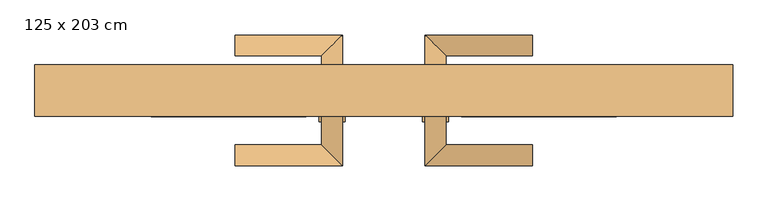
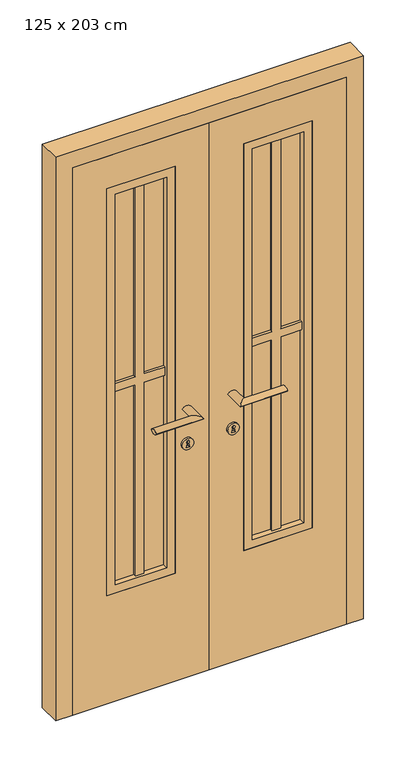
"""IFC4 building model written with IfcOpenShell, lengths in millimetres: door geometry, Puerta abatible de 2 hojas con ventana con ventilacion : 125 x 203 cm."""

from ifc_helpers import new_model, si_unit, point, frame, frame_2d, origin, place, context, project, spatial, polyline, circle_curve, ellipse_curve, trimmed, segment, composite_curve, outline, extrude, faceted_brep, source, transform, mapped, element, save
from ifc_brep_helpers import plane_surface, cylinder_surface, advanced_brep


def door_125_x_203_cm_500769dd(model_context):
    return source(origin(), model_context, "Body", "SolidModel", [
        extrude(outline(composite_curve([segment(trimmed(circle_curve(frame_2d((869.9969135, 80.0)), 20.0), [point((869.9969135, 60.0))], [point((869.9969135, 100.0))], False, "CARTESIAN"), True, "CONTINUOUS"), segment(trimmed(circle_curve(frame_2d((869.9969135, 80.0)), 20.0), [point((869.9969135, 100.0))], [point((869.9969135, 60.0))], False, "CARTESIAN"), True, "CONTINUOUS")], self_intersect=False), holes=[composite_curve([segment(polyline([(872.8227542, 82.2570328), (858.2683183, 85.8858612), (858.2683183, 74.1141388), (872.8227542, 77.7429672)]), True, "CONTINUOUS"), segment(trimmed(circle_curve(frame_2d((877.2843462, 80.0)), 5.0), [point((872.8227542, 77.7429672))], [point((872.8227542, 82.2570328))], True, "CARTESIAN"), True, "CONTINUOUS")], self_intersect=False)]), frame((0.0, -48.0, 0.0), z_axis=(0.0, 1.0, 0.0), x_axis=(0.0, 0.0, 1.0)), (0.0, 0.0, 1.0), 8.0),
        advanced_brep(
        [(96.0, -40.0, 1000.0), (64.0, -40.0, 1000.0), (96.0, -84.0, 1000.0), (64.0, -116.0, 1000.0), (230.0, -84.0, 1000.0), (230.0, -116.0, 1000.0)],
        [
            (0, 1, circle_curve(frame((80.0, -40.0, 1011.8032746), z_axis=(0.0, 1.0, 0.0), x_axis=(-1.0, 0.0, 0.0)), 19.8825877)),
            (1, 0, circle_curve(frame((80.0, -40.0, 988.1967254), z_axis=(0.0, 1.0, 0.0), x_axis=(-1.0, 0.0, 0.0)), 19.8825877)),
            (0, 2),
            (2, 3, ellipse_curve(frame((80.0, -100.0, 1011.8032746), z_axis=(-0.7071067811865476, 0.7071067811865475, 0.0), x_axis=(0.7071067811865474, 0.7071067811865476, 0.0)), 28.1182251, 19.8825877)),
            (3, 1),
            (3, 2, ellipse_curve(frame((80.0, -100.0, 988.1967254), z_axis=(-0.7071067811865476, 0.7071067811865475, 0.0), x_axis=(0.7071067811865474, 0.7071067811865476, 0.0)), 28.1182251, 19.8825877)),
            (4, 5, circle_curve(frame((230.0, -100.0, 988.1967254), z_axis=(1.0, 0.0, 0.0), x_axis=(0.0, -1.0, 0.0)), 19.8825877)),
            (5, 4, circle_curve(frame((230.0, -100.0, 1011.8032746), z_axis=(1.0, 0.0, 0.0), x_axis=(0.0, -1.0, 0.0)), 19.8825877)),
            (2, 4),
            (5, 3),
        ],
        [
            plane_surface(frame((80.0, -40.0, 1000.0), z_axis=(0.0, 1.0, 0.0), x_axis=(0.0, 0.0, -1.0))),
            cylinder_surface(frame((80.0, -40.0, 1011.8032746), z_axis=(0.0, 1.0, 0.0), x_axis=(-1.0, 0.0, 0.0)), 19.8825877),
            cylinder_surface(frame((80.0, -40.0, 988.1967254), z_axis=(0.0, 1.0, 0.0), x_axis=(-1.0, 0.0, 0.0)), 19.8825877),
            plane_surface(frame((230.0, -100.0, 1000.0), z_axis=(1.0, 0.0, 0.0), x_axis=(0.0, 0.0, -1.0))),
            cylinder_surface(frame((80.0, -100.0, 1011.8032746), z_axis=(-1.0, 0.0, 0.0), x_axis=(0.0, -1.0, 0.0)), 19.8825877),
            cylinder_surface(frame((80.0, -100.0, 988.1967254), z_axis=(-1.0, 0.0, 0.0), x_axis=(0.0, -1.0, 0.0)), 19.8825877),
        ],
        [
            (0, [[1, 2]]),
            (1, [[-1, 3, 4, 5]]),
            (2, [[-2, -5, 6, -3]]),
            (3, [[7, 8]]),
            (4, [[-4, 9, -8, 10]]),
            (5, [[-6, -10, -7, -9]]),
        ],
    ),
        extrude(outline(composite_curve([segment(trimmed(circle_curve(frame_2d((869.9969135, 80.0)), 20.0), [point((869.9969135, 100.0))], [point((869.9969135, 60.0))], False, "CARTESIAN"), True, "CONTINUOUS"), segment(trimmed(circle_curve(frame_2d((869.9969135, 80.0)), 20.0), [point((869.9969135, 60.0))], [point((869.9969135, 100.0))], False, "CARTESIAN"), True, "CONTINUOUS")], self_intersect=False), holes=[composite_curve([segment(polyline([(858.2683183, 74.1141388), (872.8227542, 77.7429672)]), True, "CONTINUOUS"), segment(trimmed(circle_curve(frame_2d((877.2843462, 80.0)), 5.0), [point((872.8227542, 77.7429672))], [point((872.8227542, 82.2570328))], True, "CARTESIAN"), True, "CONTINUOUS"), segment(polyline([(872.8227542, 82.2570328), (858.2683183, 85.8858612), (858.2683183, 74.1141388)]), True, "CONTINUOUS")], self_intersect=False)]), frame((0.0, 10.0, 0.0), z_axis=(0.0, 1.0, 0.0), x_axis=(0.0, 0.0, 1.0)), (0.0, 0.0, 1.0), 8.0),
        advanced_brep(
        [(64.0, 10.0, 1000.0), (96.0, 10.0, 1000.0), (64.0, 86.0, 1000.0), (96.0, 54.0, 1000.0), (230.0, 86.0, 1000.0), (230.0, 54.0, 1000.0)],
        [
            (0, 1, circle_curve(frame((80.0, 10.0, 1011.8032746), z_axis=(0.0, -1.0, 0.0), x_axis=(1.0, 0.0, 0.0)), 19.8825877)),
            (1, 0, circle_curve(frame((80.0, 10.0, 988.1967254), z_axis=(0.0, -1.0, 0.0), x_axis=(1.0, 0.0, 0.0)), 19.8825877)),
            (0, 2),
            (2, 3, ellipse_curve(frame((80.0, 70.0, 1011.8032746), z_axis=(-0.7071067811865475, -0.7071067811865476, 0.0), x_axis=(0.7071067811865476, -0.7071067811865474, 0.0)), 28.1182251, 19.8825877)),
            (3, 1),
            (3, 2, ellipse_curve(frame((80.0, 70.0, 988.1967254), z_axis=(-0.7071067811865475, -0.7071067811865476, 0.0), x_axis=(0.7071067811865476, -0.7071067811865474, 0.0)), 28.1182251, 19.8825877)),
            (4, 5, circle_curve(frame((230.0, 70.0, 988.1967254), z_axis=(1.0, 0.0, 0.0), x_axis=(0.0, -1.0, 0.0)), 19.8825877)),
            (5, 4, circle_curve(frame((230.0, 70.0, 1011.8032746), z_axis=(1.0, 0.0, 0.0), x_axis=(0.0, -1.0, 0.0)), 19.8825877)),
            (2, 4),
            (5, 3),
        ],
        [
            plane_surface(frame((80.0, 10.0, 1000.0), z_axis=(0.0, -1.0, 0.0), x_axis=(0.0, 0.0, -1.0))),
            cylinder_surface(frame((80.0, 10.0, 1011.8032746), z_axis=(0.0, -1.0, 0.0), x_axis=(1.0, 0.0, 0.0)), 19.8825877),
            cylinder_surface(frame((80.0, 10.0, 988.1967254), z_axis=(0.0, -1.0, 0.0), x_axis=(1.0, 0.0, 0.0)), 19.8825877),
            plane_surface(frame((230.0, 70.0, 1000.0), z_axis=(1.0, 0.0, 0.0), x_axis=(0.0, 0.0, -1.0))),
            cylinder_surface(frame((80.0, 70.0, 1011.8032746), z_axis=(-1.0, 0.0, 0.0), x_axis=(0.0, -1.0, 0.0)), 19.8825877),
            cylinder_surface(frame((80.0, 70.0, 988.1967254), z_axis=(-1.0, 0.0, 0.0), x_axis=(0.0, -1.0, 0.0)), 19.8825877),
        ],
        [
            (0, [[1, 2]]),
            (1, [[-1, 3, 4, 5]]),
            (2, [[-2, -5, 6, -3]]),
            (3, [[7, 8]]),
            (4, [[-4, 9, -8, 10]]),
            (5, [[-6, -10, -7, -9]]),
        ],
    ),
        extrude(outline(polyline([(2030.0, 480.0), (2030.0, 0.0), (0.0, 0.0), (0.0, 480.0), (2030.0, 480.0)]), holes=[polyline([(400.0, 360.0), (400.0, 120.0), (1910.0, 120.0), (1910.0, 360.0), (400.0, 360.0)])]), frame((0.0, -40.0, 0.0), z_axis=(0.0, 1.0, 0.0), x_axis=(0.0, 0.0, 1.0)), (0.0, 0.0, 1.0), 50.0),
        extrude(outline(polyline([(400.0, 120.0), (400.0, 360.0), (1910.0, 360.0), (1910.0, 120.0), (400.0, 120.0)]), holes=[polyline([(1880.0, 150.0), (1880.0, 330.0), (430.0, 330.0), (430.0, 150.0), (1880.0, 150.0)])]), frame((0.0, -40.0, 0.0), z_axis=(0.0, 1.0, 0.0), x_axis=(0.0, 0.0, 1.0)), (0.0, 0.0, 1.0), 50.0),
        extrude(outline(polyline([(360.0, -10.0), (360.0, -20.0), (120.0, -20.0), (120.0, -10.0), (360.0, -10.0)])), frame((0.0, 0.0, 400.0), z_axis=(0.0, 0.0, 1.0), x_axis=(1.0, 0.0, 0.0)), (0.0, 0.0, 1.0), 1510.0),
        extrude(outline(polyline([(1170.0, 120.0), (1140.0, 120.0), (1140.0, 225.0), (400.0, 225.0), (400.0, 255.0), (1140.0, 255.0), (1140.0, 360.0), (1170.0, 360.0), (1170.0, 255.0), (1910.0, 255.0), (1910.0, 225.0), (1170.0, 225.0), (1170.0, 120.0)])), frame((0.0, -30.0, 0.0), z_axis=(0.0, 1.0, 0.0), x_axis=(0.0, 0.0, 1.0)), (0.0, 0.0, 1.0), 30.0),
        extrude(outline(composite_curve([segment(trimmed(circle_curve(frame_2d((869.9969135, -80.0)), 20.0), [point((869.9969135, -60.0))], [point((869.9969135, -100.0))], False, "CARTESIAN"), True, "CONTINUOUS"), segment(trimmed(circle_curve(frame_2d((869.9969135, -80.0)), 20.0), [point((869.9969135, -100.0))], [point((869.9969135, -60.0))], False, "CARTESIAN"), True, "CONTINUOUS")], self_intersect=False), holes=[composite_curve([segment(trimmed(circle_curve(frame_2d((877.2843462, -80.0)), 5.0), [point((872.8227542, -82.2570328))], [point((872.8227542, -77.7429672))], True, "CARTESIAN"), True, "CONTINUOUS"), segment(polyline([(872.8227542, -77.7429672), (858.2683183, -74.1141388), (858.2683183, -85.8858612), (872.8227542, -82.2570328)]), True, "CONTINUOUS")], self_intersect=False)]), frame((0.0, -48.0, 0.0), z_axis=(0.0, 1.0, 0.0), x_axis=(0.0, 0.0, 1.0)), (0.0, 0.0, 1.0), 8.0),
        advanced_brep(
        [(-96.0, -40.0, 1000.0), (-64.0, -40.0, 1000.0), (-64.0, -116.0, 1000.0), (-96.0, -84.0, 1000.0), (-230.0, -84.0, 1000.0), (-230.0, -116.0, 1000.0)],
        [
            (0, 1, circle_curve(frame((-80.0, -40.0, 988.1967254), z_axis=(0.0, 1.0, 0.0), x_axis=(1.0, 0.0, 0.0)), 19.8825877)),
            (1, 0, circle_curve(frame((-80.0, -40.0, 1011.8032746), z_axis=(0.0, 1.0, 0.0), x_axis=(1.0, 0.0, 0.0)), 19.8825877)),
            (1, 2),
            (2, 3, ellipse_curve(frame((-80.0, -100.0, 1011.8032746), z_axis=(0.7071067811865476, 0.7071067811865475, 0.0), x_axis=(-0.7071067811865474, 0.7071067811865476, 0.0)), 28.1182251, 19.8825877)),
            (3, 0),
            (3, 2, ellipse_curve(frame((-80.0, -100.0, 988.1967254), z_axis=(0.7071067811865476, 0.7071067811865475, 0.0), x_axis=(-0.7071067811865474, 0.7071067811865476, 0.0)), 28.1182251, 19.8825877)),
            (4, 5, circle_curve(frame((-230.0, -100.0, 1011.8032746), z_axis=(-1.0, 0.0, 0.0), x_axis=(0.0, -1.0, 0.0)), 19.8825877)),
            (5, 4, circle_curve(frame((-230.0, -100.0, 988.1967254), z_axis=(-1.0, 0.0, 0.0), x_axis=(0.0, -1.0, 0.0)), 19.8825877)),
            (2, 5),
            (4, 3),
        ],
        [
            plane_surface(frame((-80.0, -40.0, 1000.0), z_axis=(0.0, 1.0, 0.0), x_axis=(0.0, 0.0, -1.0))),
            cylinder_surface(frame((-80.0, -40.0, 1011.8032746), z_axis=(0.0, 1.0, 0.0), x_axis=(1.0, 0.0, 0.0)), 19.8825877),
            cylinder_surface(frame((-80.0, -40.0, 988.1967254), z_axis=(0.0, 1.0, 0.0), x_axis=(1.0, 0.0, 0.0)), 19.8825877),
            plane_surface(frame((-230.0, -100.0, 1000.0), z_axis=(-1.0, 0.0, 0.0), x_axis=(0.0, 0.0, -1.0))),
            cylinder_surface(frame((-80.0, -100.0, 1011.8032746), z_axis=(1.0, 0.0, 0.0), x_axis=(0.0, -1.0, 0.0)), 19.8825877),
            cylinder_surface(frame((-80.0, -100.0, 988.1967254), z_axis=(1.0, 0.0, 0.0), x_axis=(0.0, -1.0, 0.0)), 19.8825877),
        ],
        [
            (0, [[1, 2]]),
            (1, [[3, 4, 5, -2]]),
            (2, [[-5, 6, -3, -1]]),
            (3, [[7, 8]]),
            (4, [[9, -7, 10, -4]]),
            (5, [[-10, -8, -9, -6]]),
        ],
    ),
        extrude(outline(composite_curve([segment(trimmed(circle_curve(frame_2d((869.9969135, -80.0)), 20.0), [point((869.9969135, -100.0))], [point((869.9969135, -60.0))], False, "CARTESIAN"), True, "CONTINUOUS"), segment(trimmed(circle_curve(frame_2d((869.9969135, -80.0)), 20.0), [point((869.9969135, -60.0))], [point((869.9969135, -100.0))], False, "CARTESIAN"), True, "CONTINUOUS")], self_intersect=False), holes=[composite_curve([segment(polyline([(858.2683183, -74.1141388), (858.2683183, -85.8858612), (872.8227542, -82.2570328)]), True, "CONTINUOUS"), segment(trimmed(circle_curve(frame_2d((877.2843462, -80.0)), 5.0), [point((872.8227542, -82.2570328))], [point((872.8227542, -77.7429672))], True, "CARTESIAN"), True, "CONTINUOUS"), segment(polyline([(872.8227542, -77.7429672), (858.2683183, -74.1141388)]), True, "CONTINUOUS")], self_intersect=False)]), frame((0.0, 10.0, 0.0), z_axis=(0.0, 1.0, 0.0), x_axis=(0.0, 0.0, 1.0)), (0.0, 0.0, 1.0), 8.0),
        advanced_brep(
        [(-64.0, 10.0, 1000.0), (-96.0, 10.0, 1000.0), (-96.0, 54.0, 1000.0), (-64.0, 86.0, 1000.0), (-230.0, 86.0, 1000.0), (-230.0, 54.0, 1000.0)],
        [
            (0, 1, circle_curve(frame((-80.0, 10.0, 988.1967254), z_axis=(0.0, -1.0, 0.0), x_axis=(-1.0, 0.0, 0.0)), 19.8825877)),
            (1, 0, circle_curve(frame((-80.0, 10.0, 1011.8032746), z_axis=(0.0, -1.0, 0.0), x_axis=(-1.0, 0.0, 0.0)), 19.8825877)),
            (1, 2),
            (2, 3, ellipse_curve(frame((-80.0, 70.0, 1011.8032746), z_axis=(0.7071067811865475, -0.7071067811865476, 0.0), x_axis=(-0.7071067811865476, -0.7071067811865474, 0.0)), 28.1182251, 19.8825877)),
            (3, 0),
            (3, 2, ellipse_curve(frame((-80.0, 70.0, 988.1967254), z_axis=(0.7071067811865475, -0.7071067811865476, 0.0), x_axis=(-0.7071067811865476, -0.7071067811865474, 0.0)), 28.1182251, 19.8825877)),
            (4, 5, circle_curve(frame((-230.0, 70.0, 1011.8032746), z_axis=(-1.0, 0.0, 0.0), x_axis=(0.0, -1.0, 0.0)), 19.8825877)),
            (5, 4, circle_curve(frame((-230.0, 70.0, 988.1967254), z_axis=(-1.0, 0.0, 0.0), x_axis=(0.0, -1.0, 0.0)), 19.8825877)),
            (2, 5),
            (4, 3),
        ],
        [
            plane_surface(frame((-80.0, 10.0, 1000.0), z_axis=(0.0, -1.0, 0.0), x_axis=(0.0, 0.0, -1.0))),
            cylinder_surface(frame((-80.0, 10.0, 1011.8032746), z_axis=(0.0, -1.0, 0.0), x_axis=(-1.0, 0.0, 0.0)), 19.8825877),
            cylinder_surface(frame((-80.0, 10.0, 988.1967254), z_axis=(0.0, -1.0, 0.0), x_axis=(-1.0, 0.0, 0.0)), 19.8825877),
            plane_surface(frame((-230.0, 70.0, 1000.0), z_axis=(-1.0, 0.0, 0.0), x_axis=(0.0, 0.0, -1.0))),
            cylinder_surface(frame((-80.0, 70.0, 1011.8032746), z_axis=(1.0, 0.0, 0.0), x_axis=(0.0, -1.0, 0.0)), 19.8825877),
            cylinder_surface(frame((-80.0, 70.0, 988.1967254), z_axis=(1.0, 0.0, 0.0), x_axis=(0.0, -1.0, 0.0)), 19.8825877),
        ],
        [
            (0, [[1, 2]]),
            (1, [[3, 4, 5, -2]]),
            (2, [[-5, 6, -3, -1]]),
            (3, [[7, 8]]),
            (4, [[9, -7, 10, -4]]),
            (5, [[-10, -8, -9, -6]]),
        ],
    ),
        extrude(outline(polyline([(2030.0, -480.0), (0.0, -480.0), (0.0, 0.0), (2030.0, 0.0), (2030.0, -480.0)]), holes=[polyline([(400.0, -360.0), (1910.0, -360.0), (1910.0, -120.0), (400.0, -120.0), (400.0, -360.0)])]), frame((0.0, -40.0, 0.0), z_axis=(0.0, 1.0, 0.0), x_axis=(0.0, 0.0, 1.0)), (0.0, 0.0, 1.0), 50.0),
        extrude(outline(polyline([(400.0, -120.0), (1910.0, -120.0), (1910.0, -360.0), (400.0, -360.0), (400.0, -120.0)]), holes=[polyline([(1880.0, -150.0), (430.0, -150.0), (430.0, -330.0), (1880.0, -330.0), (1880.0, -150.0)])]), frame((0.0, -40.0, 0.0), z_axis=(0.0, 1.0, 0.0), x_axis=(0.0, 0.0, 1.0)), (0.0, 0.0, 1.0), 50.0),
        extrude(outline(polyline([(-360.0, -10.0), (-120.0, -10.0), (-120.0, -20.0), (-360.0, -20.0), (-360.0, -10.0)])), frame((0.0, 0.0, 400.0), z_axis=(0.0, 0.0, 1.0), x_axis=(1.0, 0.0, 0.0)), (0.0, 0.0, 1.0), 1510.0),
        extrude(outline(polyline([(1170.0, -120.0), (1170.0, -225.0), (1910.0, -225.0), (1910.0, -255.0), (1170.0, -255.0), (1170.0, -360.0), (1140.0, -360.0), (1140.0, -255.0), (400.0, -255.0), (400.0, -225.0), (1140.0, -225.0), (1140.0, -120.0), (1170.0, -120.0)])), frame((0.0, -30.0, 0.0), z_axis=(0.0, 1.0, 0.0), x_axis=(0.0, 0.0, 1.0)), (0.0, 0.0, 1.0), 30.0),
        faceted_brep([(540.0, 40.0, 0.0), (540.0, -40.0, 0.0), (480.0, -40.0, 0.0), (480.0, 10.0, 0.0), (465.0, 10.0, 0.0), (465.0, 40.0, 0.0), (465.0, 40.0, 2015.0), (-465.0, 40.0, 2015.0), (-465.0, 40.0, 0.0), (-540.0, 40.0, 0.0), (-540.0, 40.0, 2090.0), (540.0, 40.0, 2090.0), (465.0, 10.0, 2015.0), (480.0, 10.0, 2030.0), (-480.0, 10.0, 2030.0), (-480.0, 10.0, 0.0), (-465.0, 10.0, 0.0), (-465.0, 10.0, 2015.0), (480.0, -40.0, 2030.0), (540.0, -40.0, 2090.0), (-540.0, -40.0, 2090.0), (-540.0, -40.0, 0.0), (-480.0, -40.0, 0.0), (-480.0, -40.0, 2030.0)], [[[0, 1, 2, 3, 4, 5]], [[5, 6, 7, 8, 9, 10, 11, 0]], [[4, 12, 6, 5]], [[3, 13, 14, 15, 16, 17, 12, 4]], [[2, 18, 13, 3]], [[1, 19, 20, 21, 22, 23, 18, 2]], [[0, 11, 19, 1]], [[10, 9, 21, 20]], [[9, 8, 16, 15, 22, 21]], [[17, 16, 8, 7]], [[23, 22, 15, 14]], [[12, 17, 7, 6]], [[18, 23, 14, 13]], [[11, 10, 20, 19]]]),
    ])


if __name__ == "__main__":
    model = new_model("IFC4")
    model_context = context("Model", 3, world=origin())
    ifc_project = project(units=[si_unit("LENGTHUNIT", "METRE", prefix="MILLI")], contexts=[model_context])
    site = spatial("IfcSite", under=ifc_project)
    building = spatial("IfcBuilding", under=site)
    placement = place(None, origin())
    door_125_x_203_cm_shape = door_125_x_203_cm_500769dd(model_context)
    element("IfcDoor", 1, ObjectType="Puerta abatible de 2 hojas con ventana con ventilacion : 125 x 203 cm", at=placement, inside=building, context=model_context, shape_type="MappedRepresentation", body=[
        mapped(door_125_x_203_cm_shape, transform((0.0, 0.0, 0.0), x_axis=(1.0, 0.0, 0.0), y_axis=(0.0, 1.0, 0.0), z_axis=(0.0, 0.0, 1.0))),
    ])
    save(model, "model.ifc")
